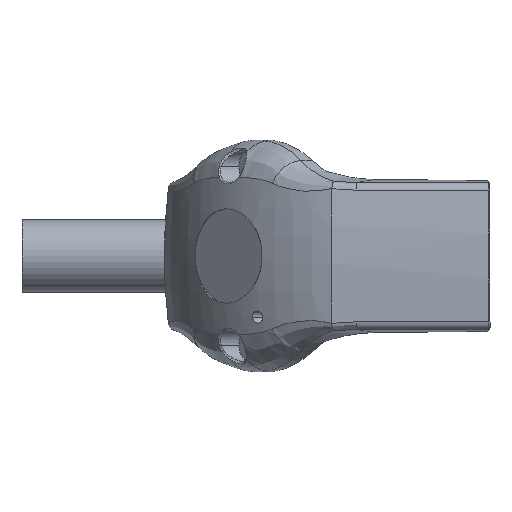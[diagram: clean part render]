
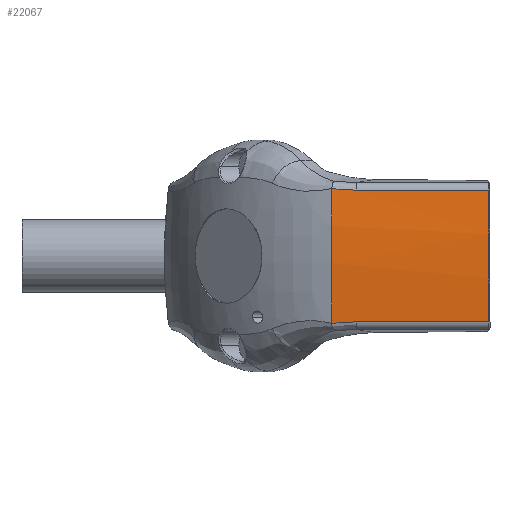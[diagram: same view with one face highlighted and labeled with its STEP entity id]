
A CAD part, left-side view. The second image highlights one B-rep face of the part: STEP entity #22067.
In plain terms, the highlighted cylindrical face has radius 200 mm (diameter 400 mm), a partial arc.
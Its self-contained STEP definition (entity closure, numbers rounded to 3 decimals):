
#540 = B_SPLINE_CURVE_WITH_KNOTS ( 'NONE', 3,
 ( #8833, #6522, #23152, #13636 ),
 .UNSPECIFIED., .F., .F.,
 ( 4, 4 ),
 ( 0., 1. ),
 .UNSPECIFIED. ) ;
#544 = EDGE_CURVE ( 'NONE', #6257, #6632, #23839, .T. ) ;
#669 = VERTEX_POINT ( 'NONE', #24411 ) ;
#874 = EDGE_CURVE ( 'NONE', #26017, #14419, #540, .T. ) ;
#882 = DIRECTION ( 'NONE',  ( 0., 0., 1. ) ) ;
#914 = EDGE_CURVE ( 'NONE', #14419, #25228, #13866, .T. ) ;
#957 = EDGE_CURVE ( 'NONE', #25228, #6257, #6739, .T. ) ;
#1075 = EDGE_CURVE ( 'NONE', #6632, #669, #10098, .T. ) ;
#1084 = CARTESIAN_POINT ( 'NONE',  ( -118.696, 59.598, 22.805 ) ) ;
#3509 = CARTESIAN_POINT ( 'NONE',  ( -118.715, 54.054, 22.639 ) ) ;
#3620 = EDGE_LOOP ( 'NONE', ( #23175, #22308, #6598, #16422, #24506, #26338 ) ) ;
#4223 = CARTESIAN_POINT ( 'NONE',  ( -118.715, 8.5, -22.639 ) ) ;
#4541 = FACE_OUTER_BOUND ( 'NONE', #3620, .T. ) ;
#5239 = CARTESIAN_POINT ( 'NONE',  ( -120.445, 62.597, 0. ) ) ;
#6126 = DIRECTION ( 'NONE',  ( 0., 0., 1. ) ) ;
#6257 = VERTEX_POINT ( 'NONE', #20383 ) ;
#6522 = CARTESIAN_POINT ( 'NONE',  ( -118.696, 59.598, -22.805 ) ) ;
#6595 = DIRECTION ( 'NONE',  ( 0., 1., 0. ) ) ;
#6598 = ORIENTED_EDGE ( 'NONE', *, *, #544, .T. ) ;
#6632 = VERTEX_POINT ( 'NONE', #24010 ) ;
#6739 = CIRCLE ( 'NONE', #14026, 200. ) ;
#7403 = CARTESIAN_POINT ( 'NONE',  ( -118.715, -25., 22.639 ) ) ;
#7605 = CARTESIAN_POINT ( 'NONE',  ( -118.657, 62.369, 23.138 ) ) ;
#8597 = CARTESIAN_POINT ( 'NONE',  ( -118.715, 54.054, -22.639 ) ) ;
#8833 = CARTESIAN_POINT ( 'NONE',  ( -118.657, 62.369, -23.138 ) ) ;
#8983 = EDGE_CURVE ( 'NONE', #26017, #669, #16800, .T. ) ;
#9939 = CARTESIAN_POINT ( 'NONE',  ( -119.555, 62.484, -15.425 ) ) ;
#10098 = B_SPLINE_CURVE_WITH_KNOTS ( 'NONE', 3,
 ( #3509, #20185, #1084, #15412 ),
 .UNSPECIFIED., .F., .F.,
 ( 4, 4 ),
 ( 0., 1. ),
 .UNSPECIFIED. ) ;
#10769 = DIRECTION ( 'NONE',  ( 0., -1., 0. ) ) ;
#11293 = VECTOR ( 'NONE', #6595, 1000. ) ;
#12731 = CARTESIAN_POINT ( 'NONE',  ( -118.657, 62.369, -23.138 ) ) ;
#13231 = DIRECTION ( 'NONE',  ( 0., 1., 0. ) ) ;
#13636 = CARTESIAN_POINT ( 'NONE',  ( -118.715, 54.054, -22.639 ) ) ;
#13866 = LINE ( 'NONE', #28856, #25664 ) ;
#14026 = AXIS2_PLACEMENT_3D ( 'NONE', #14652, #21183, #882 ) ;
#14132 = AXIS2_PLACEMENT_3D ( 'NONE', #18020, #13231, #6126 ) ;
#14419 = VERTEX_POINT ( 'NONE', #8597 ) ;
#14652 = CARTESIAN_POINT ( 'NONE',  ( 80., 8.5, 0. ) ) ;
#15412 = CARTESIAN_POINT ( 'NONE',  ( -118.657, 62.369, 23.138 ) ) ;
#16422 = ORIENTED_EDGE ( 'NONE', *, *, #1075, .T. ) ;
#16492 = CYLINDRICAL_SURFACE ( 'NONE', #14132, 200. ) ;
#16800 = B_SPLINE_CURVE_WITH_KNOTS ( 'NONE', 3,
 ( #17111, #9939, #5239, #21855, #7605 ),
 .UNSPECIFIED., .F., .F.,
 ( 4, 1, 4 ),
 ( 0., 0.023, 0.046 ),
 .UNSPECIFIED. ) ;
#17111 = CARTESIAN_POINT ( 'NONE',  ( -118.657, 62.369, -23.138 ) ) ;
#18020 = CARTESIAN_POINT ( 'NONE',  ( 80., -25., 0. ) ) ;
#20185 = CARTESIAN_POINT ( 'NONE',  ( -118.715, 56.826, 22.639 ) ) ;
#20383 = CARTESIAN_POINT ( 'NONE',  ( -118.715, 8.5, 22.639 ) ) ;
#21183 = DIRECTION ( 'NONE',  ( 0., 1., 0. ) ) ;
#21855 = CARTESIAN_POINT ( 'NONE',  ( -119.555, 62.484, 15.425 ) ) ;
#22067 = ADVANCED_FACE ( 'NONE', ( #4541 ), #16492, .T. ) ;
#22308 = ORIENTED_EDGE ( 'NONE', *, *, #957, .T. ) ;
#23152 = CARTESIAN_POINT ( 'NONE',  ( -118.715, 56.826, -22.639 ) ) ;
#23175 = ORIENTED_EDGE ( 'NONE', *, *, #914, .T. ) ;
#23839 = LINE ( 'NONE', #7403, #11293 ) ;
#24010 = CARTESIAN_POINT ( 'NONE',  ( -118.715, 54.054, 22.639 ) ) ;
#24411 = CARTESIAN_POINT ( 'NONE',  ( -118.657, 62.369, 23.138 ) ) ;
#24506 = ORIENTED_EDGE ( 'NONE', *, *, #8983, .F. ) ;
#25228 = VERTEX_POINT ( 'NONE', #4223 ) ;
#25664 = VECTOR ( 'NONE', #10769, 1000. ) ;
#26017 = VERTEX_POINT ( 'NONE', #12731 ) ;
#26338 = ORIENTED_EDGE ( 'NONE', *, *, #874, .T. ) ;
#28856 = CARTESIAN_POINT ( 'NONE',  ( -118.715, -25., -22.639 ) ) ;
